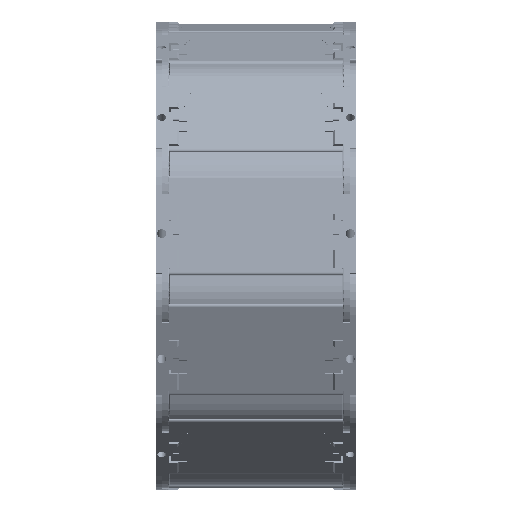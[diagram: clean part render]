
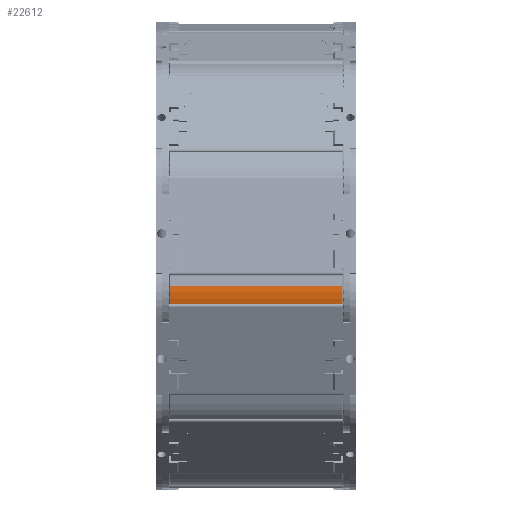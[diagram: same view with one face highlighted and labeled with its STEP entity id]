
A CAD part, front view. The second image highlights one B-rep face of the part: STEP entity #22612.
In plain terms, the highlighted cylindrical face has radius 30.5 mm (diameter 61 mm), a partial arc.
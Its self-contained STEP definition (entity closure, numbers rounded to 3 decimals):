
#16922=CARTESIAN_POINT('',(164.491,162.402,60.5));
#16923=VERTEX_POINT('',#16922);
#16974=CARTESIAN_POINT('',(177.462,165.297,60.5));
#16975=VERTEX_POINT('',#16974);
#16991=CARTESIAN_POINT('',(177.462,134.797,60.5));
#16992=DIRECTION('',(0.,0.,1.));
#16993=DIRECTION('',(-0.218,0.976,0.));
#16994=AXIS2_PLACEMENT_3D('',#16991,#16992,#16993);
#16995=CIRCLE('',#16994,30.5);
#16996=EDGE_CURVE('',#16975,#16923,#16995,.T.);
#20950=CARTESIAN_POINT('',(164.491,162.402,176.1));
#20951=VERTEX_POINT('',#20950);
#20984=CARTESIAN_POINT('',(177.462,165.297,176.1));
#20985=VERTEX_POINT('',#20984);
#20993=CARTESIAN_POINT('',(177.462,134.797,176.1));
#20994=DIRECTION('',(0.0,0.0,1.));
#20995=DIRECTION('',(-0.218,0.976,0.0));
#20996=AXIS2_PLACEMENT_3D('',#20993,#20994,#20995);
#20997=CIRCLE('',#20996,30.5);
#20998=EDGE_CURVE('',#20985,#20951,#20997,.T.);
#22586=CARTESIAN_POINT('',(164.491,162.402,60.5));
#22587=DIRECTION('',(0.0,0.0,1.0));
#22588=VECTOR('',#22587,115.6);
#22589=LINE('',#22586,#22588);
#22590=EDGE_CURVE('',#16923,#20951,#22589,.T.);
#22596=CARTESIAN_POINT('',(177.462,134.797,0.0));
#22597=DIRECTION('',(0.0,0.0,1.0));
#22598=DIRECTION('',(0.0,1.0,0.0));
#22599=AXIS2_PLACEMENT_3D('',#22596,#22597,#22598);
#22600=CYLINDRICAL_SURFACE('',#22599,30.5);
#22601=ORIENTED_EDGE('',*,*,#22590,.T.);
#22602=ORIENTED_EDGE('',*,*,#20998,.F.);
#22603=CARTESIAN_POINT('',(177.462,165.297,60.5));
#22604=DIRECTION('',(0.0,0.0,1.0));
#22605=VECTOR('',#22604,115.6);
#22606=LINE('',#22603,#22605);
#22607=EDGE_CURVE('',#16975,#20985,#22606,.T.);
#22608=ORIENTED_EDGE('',*,*,#22607,.F.);
#22609=ORIENTED_EDGE('',*,*,#16996,.T.);
#22610=EDGE_LOOP('',(#22601,#22602,#22608,#22609));
#22611=FACE_OUTER_BOUND('',#22610,.T.);
#22612=ADVANCED_FACE('',(#22611),#22600,.T.);
